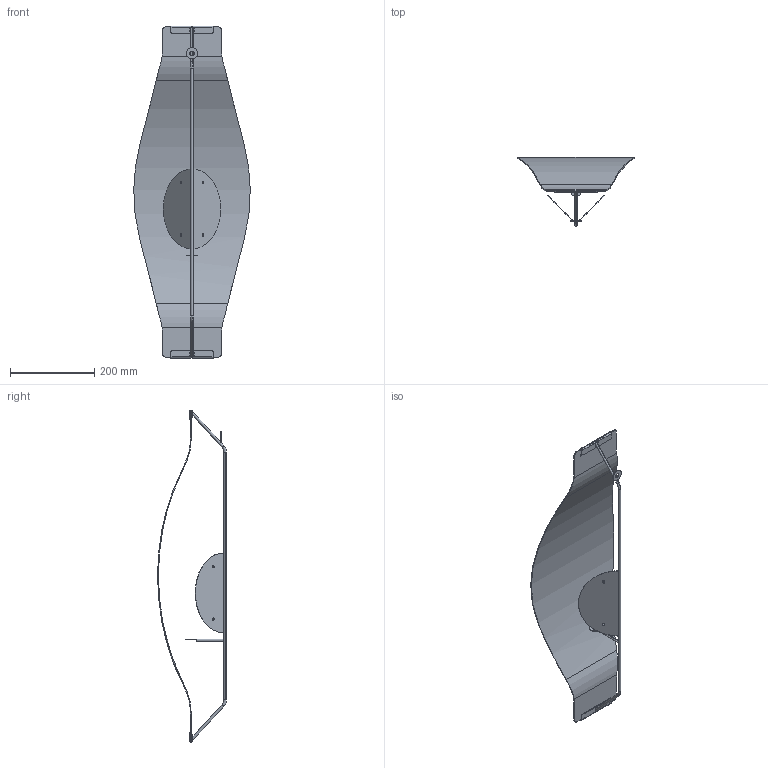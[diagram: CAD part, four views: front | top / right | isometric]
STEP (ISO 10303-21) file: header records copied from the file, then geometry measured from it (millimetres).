
FILE_DESCRIPTION (( 'STEP AP214' ), '1' );
FILE_NAME ('Stella acryl.STEP', '2023-10-17T13:35:00', ( '' ), ( '' ), 'SwSTEP 2.0', 'SolidWorks 2018', '' );
FILE_SCHEMA (( 'AUTOMOTIVE_DESIGN' ));
Length unit declared in the file: millimetre
Products named in the file (3): ställning Acryl_Default<As Machined>; Stella acryl; skärm acryl
Assembly tree (2 placements, depth 2):
  Stella acryl
    ställning Acryl_Default<As Machined>
    skärm acryl
Bounding box: 277.13 x 163.9 x 790.05 mm (x, y, z)
Volume: 402643.3 mm3; surface area: 430491.1 mm2
Topology: 8 solids, 8 shells, 153 faces, 397 edges, 256 vertices
Faces by surface type: cylinder 79, plane 70, torus 4
Entity records: 4963 total; most frequent: CARTESIAN_POINT 985, DIRECTION 823, ORIENTED_EDGE 794, EDGE_CURVE 397, AXIS2_PLACEMENT_3D 310, VERTEX_POINT 256, VECTOR 203, LINE 203
